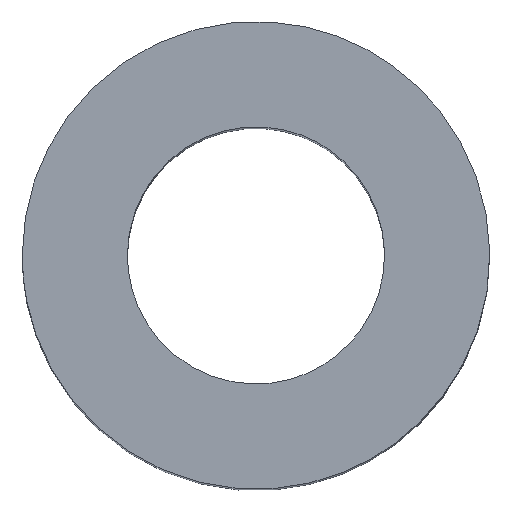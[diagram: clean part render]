
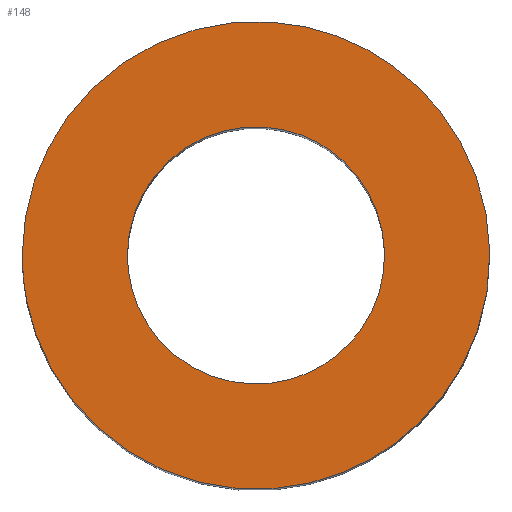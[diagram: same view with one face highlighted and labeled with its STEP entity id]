
A CAD part, top view. The second image highlights one B-rep face of the part: STEP entity #148.
In plain terms, the highlighted free-form (B-spline) face has degree [1, 1] with [2, 2] control points.
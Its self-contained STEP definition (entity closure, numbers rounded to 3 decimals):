
#115 = EDGE_CURVE('',#116,#116,#118,.T.);
#116 = VERTEX_POINT('',#117);
#117 = CARTESIAN_POINT('',(-3.,0.,11.));
#118 = ( BOUNDED_CURVE() B_SPLINE_CURVE(2,(#119,#120,#121,#122,#123,#124
,#125),.UNSPECIFIED.,.T.,.F.) B_SPLINE_CURVE_WITH_KNOTS((1,2,2,2,2,1),(
    -2.094,0.,2.094,4.189,6.283,
8.378),.UNSPECIFIED.) CURVE() GEOMETRIC_REPRESENTATION_ITEM() 
RATIONAL_B_SPLINE_CURVE((1.,0.5,1.,0.5,1.,0.5,1.)) REPRESENTATION_ITEM(
  '') );
#119 = CARTESIAN_POINT('',(-3.,0.,11.));
#120 = CARTESIAN_POINT('',(-3.,5.196,11.));
#121 = CARTESIAN_POINT('',(1.5,2.598,11.));
#122 = CARTESIAN_POINT('',(6.,0.,11.));
#123 = CARTESIAN_POINT('',(1.5,-2.598,11.));
#124 = CARTESIAN_POINT('',(-3.,-5.196,11.));
#125 = CARTESIAN_POINT('',(-3.,0.,11.));
#148 = ADVANCED_FACE('',(#149,#163),#166,.T.);
#149 = FACE_BOUND('',#150,.T.);
#150 = EDGE_LOOP('',(#151));
#151 = ORIENTED_EDGE('',*,*,#152,.T.);
#152 = EDGE_CURVE('',#153,#153,#155,.T.);
#153 = VERTEX_POINT('',#154);
#154 = CARTESIAN_POINT('',(-1.65,0.,11.));
#155 = ( BOUNDED_CURVE() B_SPLINE_CURVE(2,(#156,#157,#158,#159,#160,#161
,#162),.UNSPECIFIED.,.T.,.F.) B_SPLINE_CURVE_WITH_KNOTS((1,2,2,2,2,1),(
    -2.094,0.,2.094,4.189,6.283,
8.378),.UNSPECIFIED.) CURVE() GEOMETRIC_REPRESENTATION_ITEM() 
RATIONAL_B_SPLINE_CURVE((1.,0.5,1.,0.5,1.,0.5,1.)) REPRESENTATION_ITEM(
  '') );
#156 = CARTESIAN_POINT('',(-1.65,0.,11.));
#157 = CARTESIAN_POINT('',(-1.65,2.858,11.));
#158 = CARTESIAN_POINT('',(0.825,1.429,11.));
#159 = CARTESIAN_POINT('',(3.3,0.,11.));
#160 = CARTESIAN_POINT('',(0.825,-1.429,11.));
#161 = CARTESIAN_POINT('',(-1.65,-2.858,11.));
#162 = CARTESIAN_POINT('',(-1.65,0.,11.));
#163 = FACE_BOUND('',#164,.T.);
#164 = EDGE_LOOP('',(#165));
#165 = ORIENTED_EDGE('',*,*,#115,.F.);
#166 = B_SPLINE_SURFACE_WITH_KNOTS('',1,1,(
    (#167,#168)
    ,(#169,#170
  )),.UNSPECIFIED.,.F.,.F.,.F.,(2,2),(2,2),(0.,6.),(-3.,3.),
  .PIECEWISE_BEZIER_KNOTS.);
#167 = CARTESIAN_POINT('',(-3.,-3.,11.));
#168 = CARTESIAN_POINT('',(-3.,3.,11.));
#169 = CARTESIAN_POINT('',(3.,-3.,11.));
#170 = CARTESIAN_POINT('',(3.,3.,11.));
